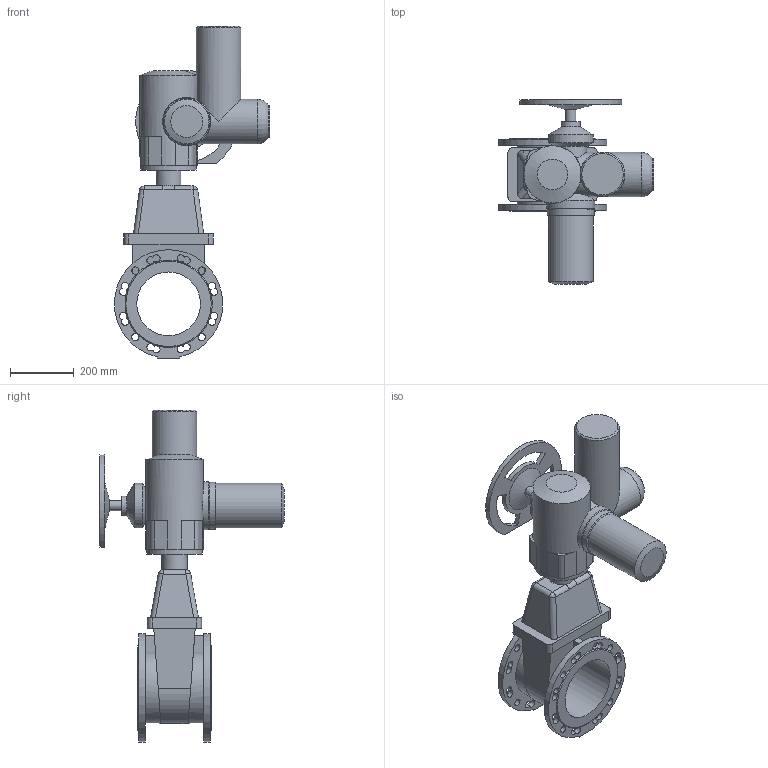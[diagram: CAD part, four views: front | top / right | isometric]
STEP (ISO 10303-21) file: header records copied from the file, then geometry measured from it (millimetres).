
FILE_DESCRIPTION(('STEP AP203'), '1');
FILE_NAME('青溻桄赅 47GVA DN200 PN10_PN16+MT903.A30', '', ('UNSPECIFIED'), ('UNSPECIFIED'), 'ASCON STEP Converter 1.6', 'ASCON Math Kernel', '');
FILE_SCHEMA(('CONFIG_CONTROL_DESIGN'));
Length unit declared in the file: millimetre
Bounding box: 486.97 x 578 x 1042 mm (x, y, z)
Volume: 33152768.3 mm3; surface area: 1583065.2 mm2
Topology: 2 solids, 2 shells, 248 faces, 696 edges, 443 vertices
Faces by surface type: plane 119, cylinder 110, cone 11, bspline 7, torus 1
Full cylindrical faces by diameter (mm): 14 x4, 18 x4, 23 x8, 26 x1, 32 x1, 60 x1, 80 x1, 100 x3, 140 x4, 147 x1, 151 x1, 175 x1, 200 x1
Entity records: 13241 total; most frequent: CARTESIAN_POINT 4814, DIRECTION 1383, ORIENTED_EDGE 1290, EDGE_CURVE 645, AXIS2_PLACEMENT_3D 570, VERTEX_POINT 440, EDGE_LOOP 351, CIRCLE 328
